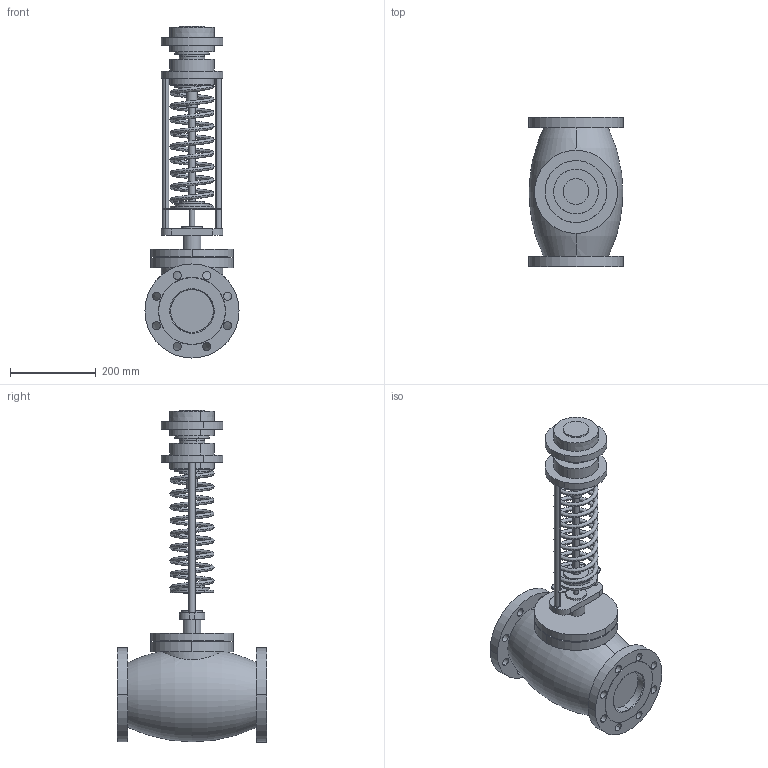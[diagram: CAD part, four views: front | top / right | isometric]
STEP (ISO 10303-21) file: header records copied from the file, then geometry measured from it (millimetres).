
FILE_DESCRIPTION (( 'STEP AP214' ), '1' );
FILE_NAME ('RDT-S, RDT-B DN-100 (0.1).STEP', '2025-12-12T09:35:06', ( '' ), ( '' ), 'SwSTEP 2.0', 'SolidWorks 2023', '' );
FILE_SCHEMA (( 'AUTOMOTIVE_DESIGN' ));
Length unit declared in the file: millimetre
Products named in the file (1): RDT-S, RDT-B DN-100 (0.1)
Bounding box: 220 x 350 x 776.5 mm (x, y, z)
Volume: 14084739.6 mm3; surface area: 738212.3 mm2
Topology: 1 solids, 3 shells, 203 faces, 474 edges, 307 vertices
Faces by surface type: cylinder 116, plane 57, cone 22, bspline 6, torus 2
Entity records: 10271 total; most frequent: CARTESIAN_POINT 5309, DIRECTION 1128, ORIENTED_EDGE 948, AXIS2_PLACEMENT_3D 476, EDGE_CURVE 474, VERTEX_POINT 307, CIRCLE 278, EDGE_LOOP 273
